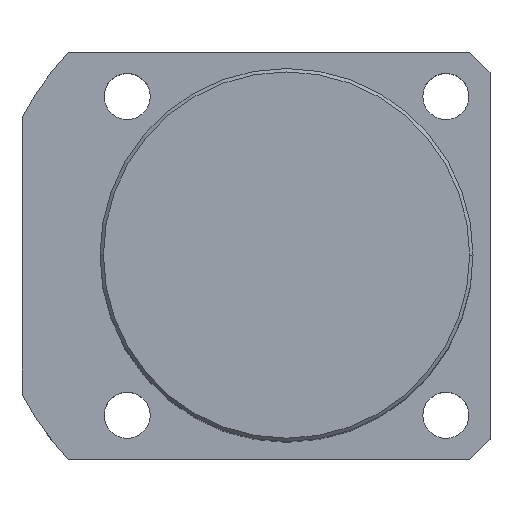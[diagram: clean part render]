
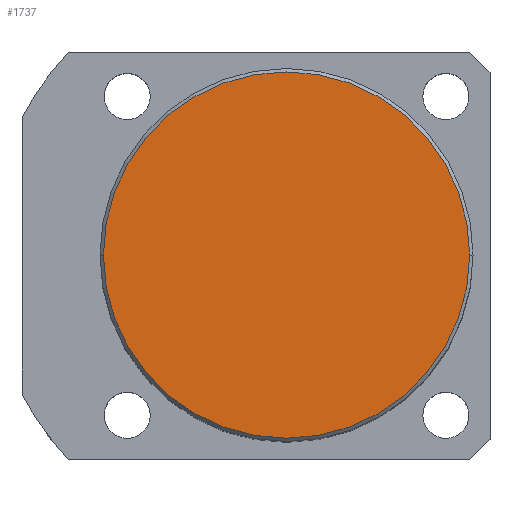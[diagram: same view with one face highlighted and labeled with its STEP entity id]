
A CAD part, top view. The second image highlights one B-rep face of the part: STEP entity #1737.
In plain terms, the highlighted planar face has unit normal (0, 0, 1).
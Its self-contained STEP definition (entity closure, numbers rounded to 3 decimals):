
#1 = EDGE_LOOP ( 'NONE', ( #321, #1437 ) ) ;
#41 = DIRECTION ( 'NONE',  ( 0., 0., 1. ) ) ;
#168 = PLANE ( 'NONE',  #1400 ) ;
#321 = ORIENTED_EDGE ( 'NONE', *, *, #623, .T. ) ;
#448 = AXIS2_PLACEMENT_3D ( 'NONE', #1927, #1735, #828 ) ;
#607 = VERTEX_POINT ( 'NONE', #956 ) ;
#623 = EDGE_CURVE ( 'NONE', #1387, #607, #1189, .T. ) ;
#751 = EDGE_CURVE ( 'NONE', #607, #1387, #1613, .T. ) ;
#810 = AXIS2_PLACEMENT_3D ( 'NONE', #1115, #952, #822 ) ;
#822 = DIRECTION ( 'NONE',  ( 1., 0., 0. ) ) ;
#828 = DIRECTION ( 'NONE',  ( 1., 0., 0. ) ) ;
#900 = FACE_OUTER_BOUND ( 'NONE', #1, .T. ) ;
#952 = DIRECTION ( 'NONE',  ( 0., 0., 1. ) ) ;
#956 = CARTESIAN_POINT ( 'NONE',  ( 27., 0., 80. ) ) ;
#1115 = CARTESIAN_POINT ( 'NONE',  ( 0., 0., 80. ) ) ;
#1189 = CIRCLE ( 'NONE', #810, 27. ) ;
#1213 = DIRECTION ( 'NONE',  ( 1., 0., 0. ) ) ;
#1387 = VERTEX_POINT ( 'NONE', #1537 ) ;
#1400 = AXIS2_PLACEMENT_3D ( 'NONE', #1547, #41, #1213 ) ;
#1437 = ORIENTED_EDGE ( 'NONE', *, *, #751, .T. ) ;
#1537 = CARTESIAN_POINT ( 'NONE',  ( -27., 0., 80. ) ) ;
#1547 = CARTESIAN_POINT ( 'NONE',  ( 0., 0., 80. ) ) ;
#1613 = CIRCLE ( 'NONE', #448, 27. ) ;
#1735 = DIRECTION ( 'NONE',  ( 0., 0., 1. ) ) ;
#1737 = ADVANCED_FACE ( 'NONE', ( #900 ), #168, .T. ) ;
#1927 = CARTESIAN_POINT ( 'NONE',  ( 0., 0., 80. ) ) ;
